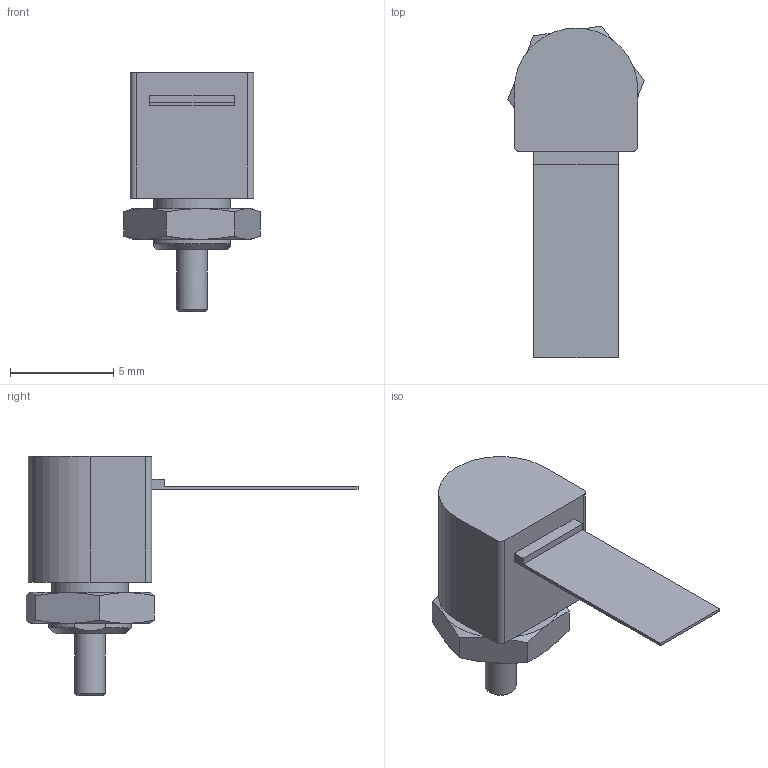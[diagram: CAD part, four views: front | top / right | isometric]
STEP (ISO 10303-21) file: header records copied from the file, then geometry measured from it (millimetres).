
FILE_DESCRIPTION(('STEP AP242'),'1');
FILE_NAME('L16E01A MAS-3-4096N1.stp','2023-01-19T06:32:45',(' '),(' '),'Spatial InterOp 3D',' ',' ');
FILE_SCHEMA(('AP242_MANAGED_MODEL_BASED_3D_ENGINEERING_MIM_LF {1 0 10303 442 1 1 4}'));
Length unit declared in the file: millimetre
Products named in the file (3): L16E01A MAS-3-4096N1; ナット
Assembly tree (2 placements, depth 2):
  L16E01A MAS-3-4096N1
    L16E01A MAS-3-4096N1
    ナット
Bounding box: 6.63 x 16.11 x 11.6 mm (x, y, z)
Volume: 265.4 mm3; surface area: 409 mm2
Topology: 2 solids, 3 shells, 56 faces, 123 edges, 76 vertices
Faces by surface type: plane 28, cone 18, cylinder 10
Full cylindrical faces by diameter (mm): 1.5 x1, 3 x2, 3.5 x1, 3.7 x1
Entity records: 2040 total; most frequent: CARTESIAN_POINT 305, DIRECTION 240, ORIENTED_EDGE 218, EDGE_CURVE 109, AXIS2_PLACEMENT_3D 98, EDGE_LOOP 74, VERTEX_POINT 73, FACE_OUTER_BOUND 61
